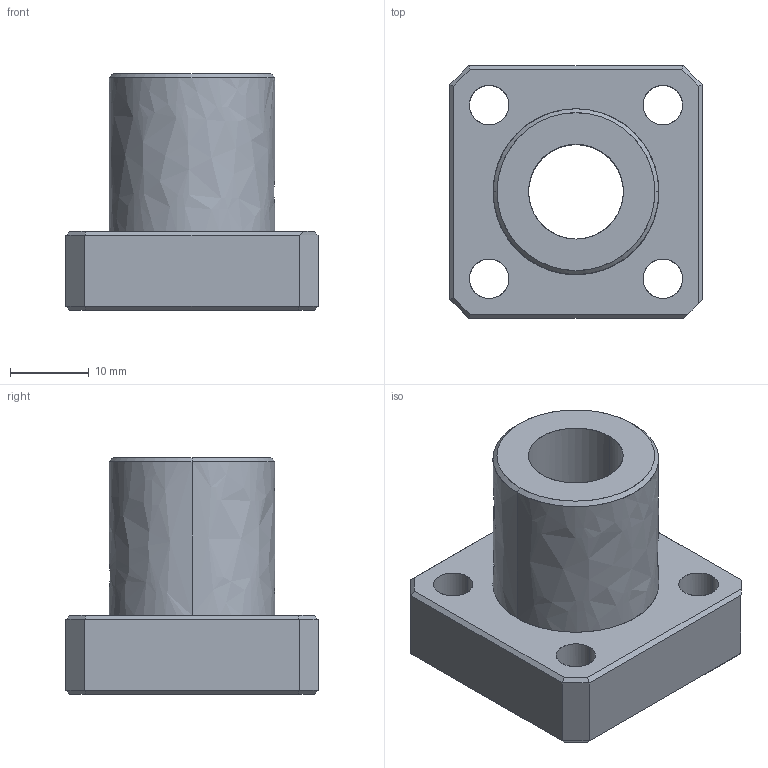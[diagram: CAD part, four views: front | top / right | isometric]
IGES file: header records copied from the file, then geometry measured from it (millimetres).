
Global section: file name: No Iges File Name specified; native system: AutoDesk Inventor R10; preprocessor: AutoDesk Inventor Iges Exporter R10; author: No Author specified; organization: No Organization specified; date: 20101214.154916; units: millimetre
Bounding box: 32 x 32 x 30 mm (x, y, z)
Surface area: 5873.4 mm2 (no closed solid volume)
Topology: 0 solids, 0 shells, 62 faces, 432 edges, 432 vertices
Faces by surface type: bspline 62
